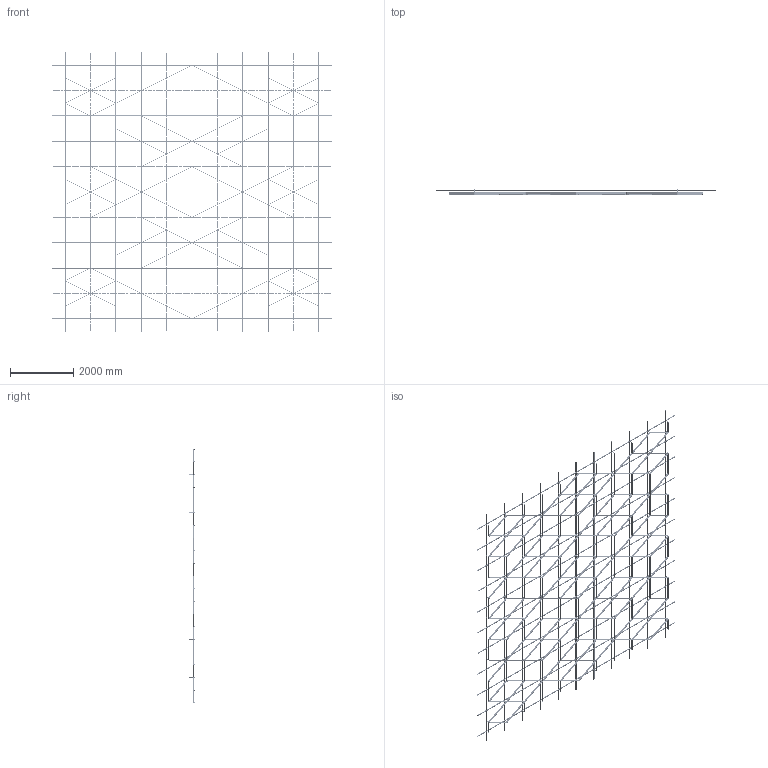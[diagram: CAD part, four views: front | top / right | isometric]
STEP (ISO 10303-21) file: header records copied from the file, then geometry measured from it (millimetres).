
FILE_DESCRIPTION (( 'STEP AP203' ), '1' );
FILE_NAME ('24 ìèíè ñ ïñ.STEP', '2025-11-26T08:11:54', ( '' ), ( '' ), 'SwSTEP 2.0', 'SolidWorks 2020', '' );
FILE_SCHEMA (( 'CONFIG_CONTROL_DESIGN' ));
Length unit declared in the file: millimetre
Products named in the file (5): 24 ìèíè ñ ïñ; SS.SEMA.2400 - Ñèìà-ïðîôèëü; SS.SEMA.2400 - Ñèìà-ïðîôèëü — îáðåçàí 1600; Var24; Ñèñòåìà â çîíå 8000õ8000
Assembly tree (90 placements, depth 3):
  24 ìèíè ñ ïñ
    Ñèñòåìà â çîíå 8000õ8000
      SS.SEMA.2400 - Ñèìà-ïðîôèëü  x66
      SS.SEMA.2400 - Ñèìà-ïðîôèëü — îáðåçàí 1600  x22
    Var24
Bounding box: 8800 x 158 x 8800 mm (x, y, z)
Volume: 93418124.4 mm3; surface area: 49864114.7 mm2
Topology: 808 solids, 808 shells, 19804 faces, 53156 edges, 34968 vertices
Faces by surface type: cylinder 12874, plane 6930
Entity records: 91407 total; most frequent: CARTESIAN_POINT 21650, ORIENTED_EDGE 13160, DIRECTION 13026, EDGE_CURVE 6580, AXIS2_PLACEMENT_3D 6264, VERTEX_POINT 4376, EDGE_LOOP 3810, FACE_OUTER_BOUND 3648
